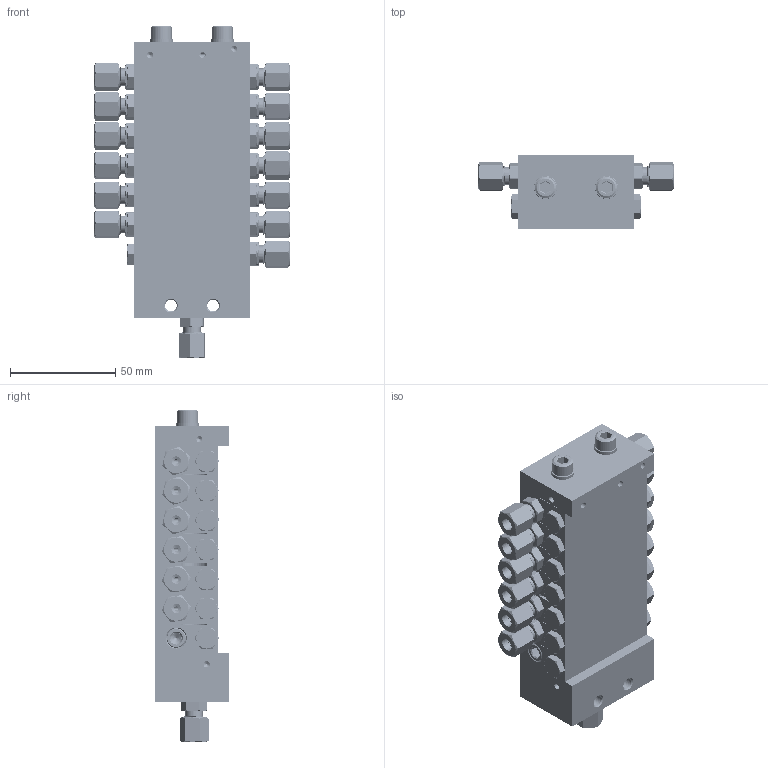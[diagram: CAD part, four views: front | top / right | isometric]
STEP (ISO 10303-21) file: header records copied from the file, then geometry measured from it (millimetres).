
FILE_DESCRIPTION (( 'STEP AP214' ), '1' );
FILE_NAME ('STW_XV_0143_13_050_13_Auslässe.STEP', '2026-01-28T15:09:54', ( '' ), ( '' ), 'SwSTEP 2.0', 'SolidWorks 2022', '' );
FILE_SCHEMA (( 'AUTOMOTIVE_DESIGN' ));
Length unit declared in the file: millimetre
Products named in the file (15): STW_XV_MITTEL_1; STW_XV_Verbindungsstopen; 991214010601_Koerper; STW_XV_0143_13_050_13_Auslässe; 991214010601_Schneidring; 991214010601; 991214010601_Mutter; XV_Mittelelement; STW_XV_Kolbenanschlag; M6X65_DIN_912; STW_XV_END; U_Scheibe_6; Verschlussstopfen_1_8_2; Verschlussstopfen_1_8; STW_XV_ENGANG
Assembly tree (52 placements, depth 3):
  STW_XV_0143_13_050_13_Auslässe
    STW_XV_ENGANG
    STW_XV_MITTEL_1  x3
    STW_XV_END
    Verschlussstopfen_1_8_2  x6
    STW_XV_Kolbenanschlag  x6
    STW_XV_Verbindungsstopen  x3
    M6X65_DIN_912  x2
    U_Scheibe_6  x2
    991214010601  x14
      991214010601_Koerper
      991214010601_Schneidring
      991214010601_Mutter
    XV_Mittelelement  x4
      STW_XV_MITTEL_1
      STW_XV_Kolbenanschlag
      Verschlussstopfen_1_8_2
      STW_XV_Verbindungsstopen
    Verschlussstopfen_1_8
Bounding box: 92.76 x 35 x 157.68 mm (x, y, z)
Volume: 234705.5 mm3; surface area: 138595 mm2
Topology: 91 solids, 91 shells, 2905 faces, 7351 edges, 4718 vertices
Faces by surface type: plane 1311, cylinder 885, cone 515, bspline 180, torus 14
Full cylindrical faces by diameter (mm): 2 x185, 3 x14, 4.5 x14, 5 x74, 5.5 x2, 5.9 x2, 6 x16, 6.2 x30, 6.4 x2, 6.5 x14, 7 x14, 7.4 x14, 7.67 x14, 8 x28, 8.3 x14, 8.4 x7, 8.6 x35, 9 x29, 9.7 x15, 9.73 x7, 9.8 x98, 10 x16, 11 x2, 15 x1
Entity records: 41474 total; most frequent: CARTESIAN_POINT 20640, ORIENTED_EDGE 2808, DIRECTION 2417, EDGE_CURVE 1404, VERTEX_POINT 997, EDGE_LOOP 925, AXIS2_PLACEMENT_3D 850, FACE_OUTER_BOUND 744
